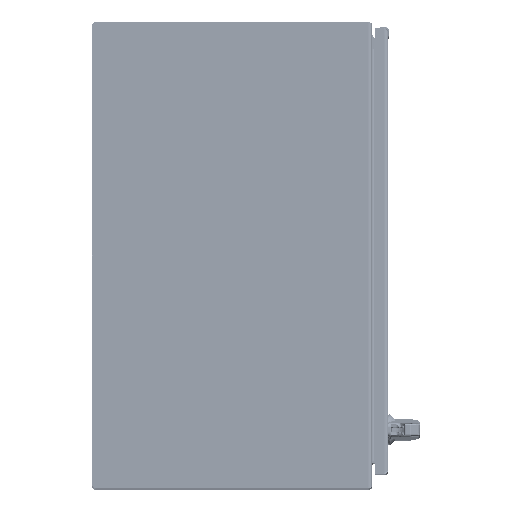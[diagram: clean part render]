
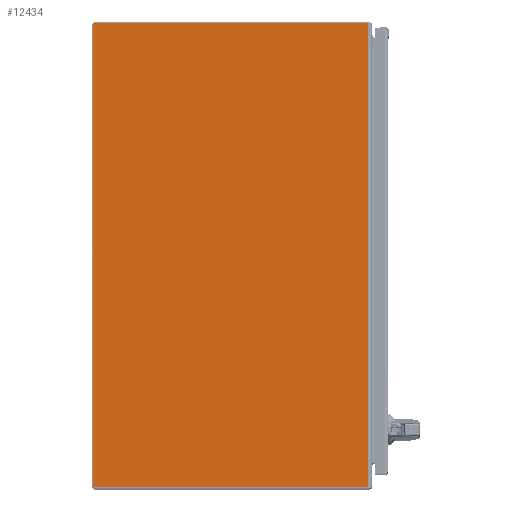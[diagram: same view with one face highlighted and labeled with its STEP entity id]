
A CAD part, top view. The second image highlights one B-rep face of the part: STEP entity #12434.
In plain terms, the highlighted planar face has unit normal (0, 0, 1) as drawn and (0, 1, 0) by its records, which use the part's own axes.
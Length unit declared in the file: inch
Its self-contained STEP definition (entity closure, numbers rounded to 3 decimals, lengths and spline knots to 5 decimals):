
#11645=CARTESIAN_POINT('',(-17.888,0.,-14.888));
#11646=DIRECTION('',(0.,1.,0.));
#11647=DIRECTION('',(0.,0.,-1.));
#11648=AXIS2_PLACEMENT_3D('',#11645,#11646,#11647);
#11653=CARTESIAN_POINT('',(-17.888,0.,14.888));
#11654=DIRECTION('',(0.,1.,0.));
#11655=DIRECTION('',(-1.,0.,0.));
#11656=AXIS2_PLACEMENT_3D('',#11653,#11654,#11655);
#11668=DIRECTION('',(0.,0.,-1.));
#11669=VECTOR('',#11668,29.776);
#11670=CARTESIAN_POINT('',(-17.948,0.,14.888));
#11671=LINE('',#11670,#11669);
#11696=DIRECTION('',(-1.,0.,0.));
#11697=VECTOR('',#11696,17.662);
#11698=CARTESIAN_POINT('',(-0.226,0.,14.948));
#11699=LINE('',#11698,#11697);
#11739=DIRECTION('',(0.,0.,1.));
#11740=VECTOR('',#11739,29.896);
#11741=CARTESIAN_POINT('',(-0.226,0.,-14.948));
#11742=LINE('',#11741,#11740);
#11847=DIRECTION('',(-1.,0.,0.));
#11848=VECTOR('',#11847,17.662);
#11849=CARTESIAN_POINT('',(-0.226,0.,-14.948));
#11850=LINE('',#11849,#11848);
#12319=CARTESIAN_POINT('',(-0.226,0.,14.948));
#12320=VERTEX_POINT('',#12319);
#12321=CARTESIAN_POINT('',(-0.226,0.,-14.948));
#12322=VERTEX_POINT('',#12321);
#12347=CARTESIAN_POINT('',(-17.888,0.,-14.948));
#12348=CARTESIAN_POINT('',(-17.948,0.,-14.888));
#12349=VERTEX_POINT('',#12347);
#12350=VERTEX_POINT('',#12348);
#12355=CARTESIAN_POINT('',(-17.948,0.,14.888));
#12356=CARTESIAN_POINT('',(-17.888,0.,14.948));
#12357=VERTEX_POINT('',#12355);
#12358=VERTEX_POINT('',#12356);
#12415=CARTESIAN_POINT('',(0.,0.,14.948));
#12416=DIRECTION('',(0.,1.,0.));
#12417=DIRECTION('',(-1.,0.,0.));
#12418=AXIS2_PLACEMENT_3D('',#12415,#12416,#12417);
#12419=PLANE('',#12418);
#12421=ORIENTED_EDGE('',*,*,#12420,.F.);
#12423=ORIENTED_EDGE('',*,*,#12422,.F.);
#12425=ORIENTED_EDGE('',*,*,#12424,.T.);
#12427=ORIENTED_EDGE('',*,*,#12426,.T.);
#12429=ORIENTED_EDGE('',*,*,#12428,.F.);
#12431=ORIENTED_EDGE('',*,*,#12430,.T.);
#12432=EDGE_LOOP('',(#12421,#12423,#12425,#12427,#12429,#12431));
#12433=FACE_OUTER_BOUND('',#12432,.F.);
#11649=CIRCLE('',#11648,0.06);
#11657=CIRCLE('',#11656,0.06);
#12420=EDGE_CURVE('',#12349,#12350,#11649,.T.);
#12422=EDGE_CURVE('',#12322,#12349,#11850,.T.);
#12424=EDGE_CURVE('',#12322,#12320,#11742,.T.);
#12426=EDGE_CURVE('',#12320,#12358,#11699,.T.);
#12428=EDGE_CURVE('',#12357,#12358,#11657,.T.);
#12430=EDGE_CURVE('',#12357,#12350,#11671,.T.);
#12434=ADVANCED_FACE('',(#12433),#12419,.T.);
